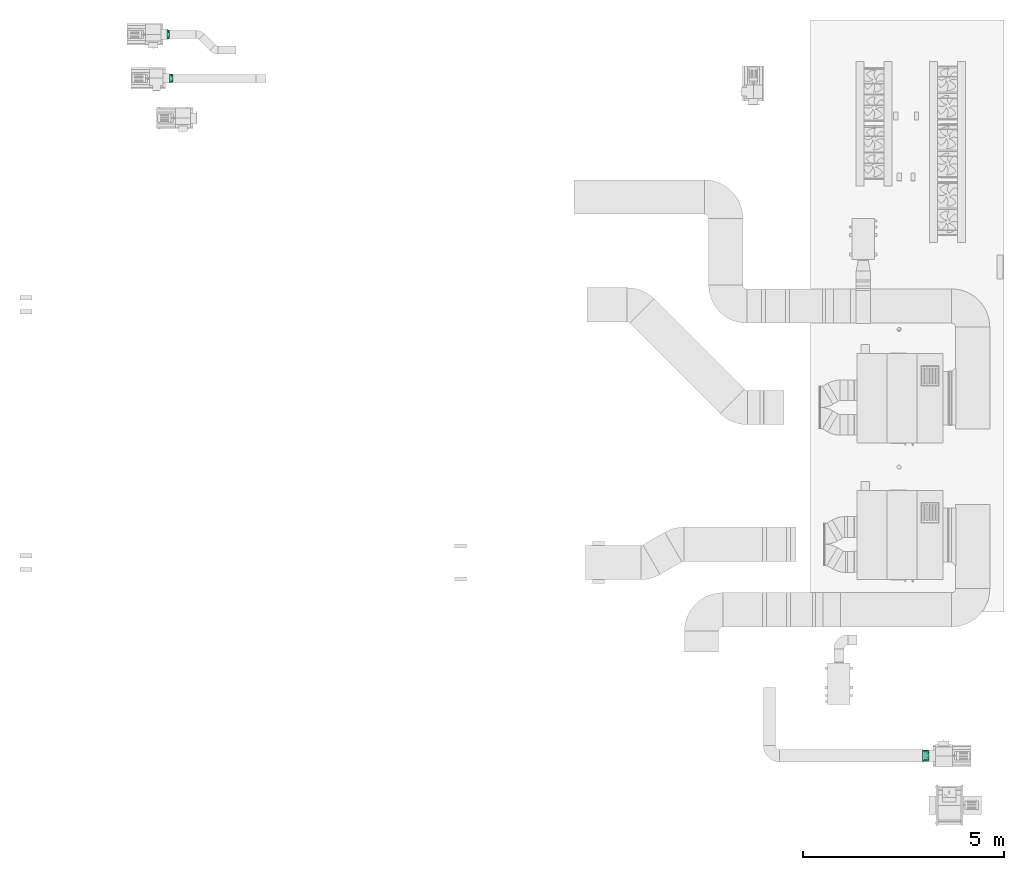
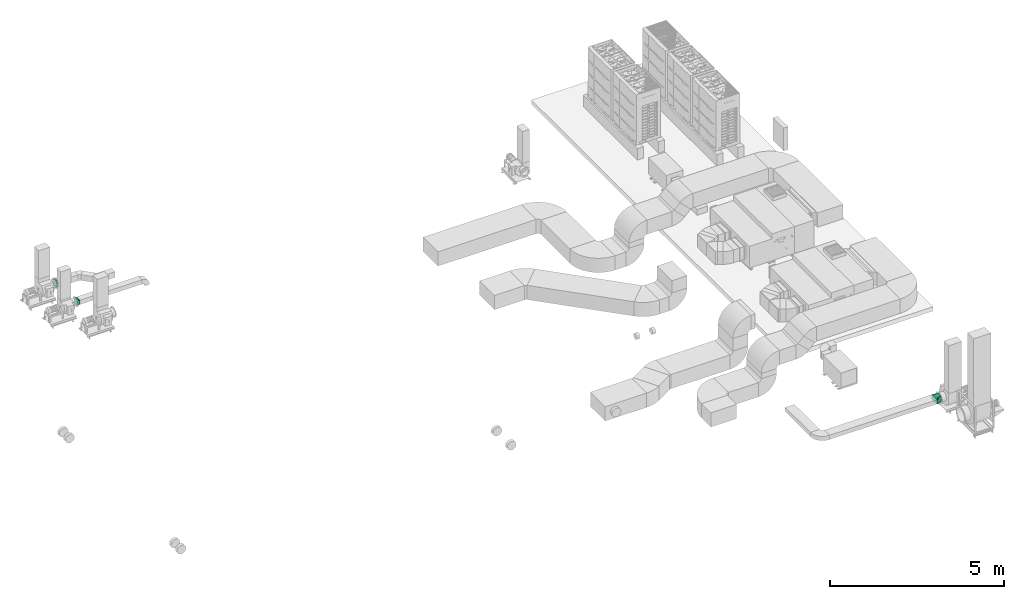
# One storey, part 7 of 10: 3 flow fittings.
"""IFC2X3 building model written with IfcOpenShell, lengths in millimetres."""

from ifc_helpers import new_model, entity, si_unit, converted_unit, derived_unit, direction, frame, origin, place, context, subcontext, project, spatial, faceted_brep, source, transform, mapped, material, type_object, type_shapes, element, save


model = new_model("IFC2X3")

# Units and contexts
model_context = context("Model", 3, precision=0.01, world=origin(), true_north=direction((6.123233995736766e-17, 1.0)))
body_context = subcontext(model_context, "Body", "Model", "MODEL_VIEW")
ifc_project = project(units=[si_unit("LENGTHUNIT", "METRE", prefix="MILLI"), converted_unit("PLANEANGLEUNIT", "DEGREE", entity("IfcPlaneAngleMeasure", 0.017453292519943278), si_unit("PLANEANGLEUNIT", "RADIAN"), dimensions=[0, 0, 0, 0, 0, 0, 0]), si_unit("AREAUNIT", "SQUARE_METRE"), derived_unit("THERMALTRANSMITTANCEUNIT", [(si_unit("MASSUNIT", "GRAM", prefix="KILO"), 1), (si_unit("THERMODYNAMICTEMPERATUREUNIT", "KELVIN"), -1), (si_unit("TIMEUNIT", "SECOND"), -3)])], contexts=[model_context])

# Site, building, storey
site_placement = place(None, origin())
site = spatial("IfcSite", under=ifc_project, at=site_placement, Name="Default", CompositionType="ELEMENT")
building_placement = place(site_placement, origin())
building = spatial("IfcBuilding", under=site, at=building_placement, Name="Praça Pedro II, 1301 - Centro (Sul), Teresina - PI, 64001-100", CompositionType="ELEMENT")
storey_placement = place(building_placement, frame((0.0, 0.0, 9040.0)))
storey = spatial("IfcBuildingStorey", under=building, at=storey_placement, Name="LAJE TÉCNICA", CompositionType="ELEMENT", Elevation=9040.0)

# Flow fittings
ifc_material = material(Name="<Unnamed>")
duct_fitting_type_1 = type_object("IfcDuctFittingType", Name="M_Transição retangular para oval - Ângulo:45 Graus", PredefinedType="NOTDEFINED", material=ifc_material)
shared_shape_1 = source(origin(), body_context, "Body", "Brep", [
    faceted_brep([(89.32590180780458, -65.83194825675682, -90.60990336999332), (89.32590180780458, -50.22092581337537, -98.56411659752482), (89.32590180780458, -34.60990336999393, -106.51832982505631), (89.32590180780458, -21.364137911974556, -108.61625297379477), (89.32590180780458, -10.682068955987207, -110.30812648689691), (89.32590180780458, -5.341034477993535, -111.15406324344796), (89.32590180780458, 0.0, -112.0), (89.32590180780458, 5.341034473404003, -111.15406324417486), (89.32590180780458, 10.682068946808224, -110.30812648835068), (89.32590180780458, 21.36413789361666, -108.61625297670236), (89.32590180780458, 34.60990336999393, -106.5183298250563), (89.32590180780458, 50.2209258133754, -98.56411659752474), (89.32590180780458, 65.83194825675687, -90.60990336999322), (89.32590180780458, 78.22092581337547, -78.22092581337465), (89.32590180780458, 90.60990336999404, -65.83194825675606), (89.32590180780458, 98.56411659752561, -50.22092581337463), (89.32590180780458, 106.51832982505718, -34.60990336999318), (89.32590180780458, 108.61625297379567, -21.364137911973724), (89.32590180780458, 110.30812648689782, -10.68206895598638), (89.32590180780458, 111.15406324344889, -5.341034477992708), (89.32590180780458, 112.0, 0.0), (89.32590180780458, 111.15406324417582, 5.341034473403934), (89.32590180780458, 110.30812648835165, 10.682068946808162), (89.32590180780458, 108.61625297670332, 21.364137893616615), (89.32590180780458, 106.51832982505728, 34.60990336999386), (89.32590180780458, 98.56411659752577, 50.220925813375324), (89.32590180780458, 90.60990336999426, 65.83194825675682), (89.32590180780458, 78.22092581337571, 78.22092581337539), (89.32590180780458, 65.83194825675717, 90.60990336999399), (89.32590180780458, 50.22092581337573, 98.56411659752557), (89.32590180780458, 34.6099033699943, 106.51832982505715), (89.32590180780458, 21.364137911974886, 108.61625297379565), (89.32590180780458, 10.682068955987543, 110.30812648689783), (89.32590180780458, 5.341034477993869, 111.15406324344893), (89.32590180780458, 0.0, 112.0), (89.32590180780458, -5.341034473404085, 111.1540632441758), (89.32590180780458, -10.682068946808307, 110.30812648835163), (89.32590180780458, -21.364137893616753, 108.61625297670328), (89.32590180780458, -34.60990336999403, 106.51832982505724), (89.32590180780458, -50.220925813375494, 98.5641165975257), (89.32590180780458, -65.83194825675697, 90.60990336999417), (89.32590180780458, -78.22092581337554, 78.22092581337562), (89.32590180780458, -90.60990336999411, 65.83194825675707), (89.32590180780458, -98.56411659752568, 50.220925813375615), (89.32590180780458, -106.51832982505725, 34.60990336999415), (89.32590180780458, -108.61625297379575, 21.364137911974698), (89.32590180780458, -110.3081264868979, 10.682068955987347), (89.32590180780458, -111.15406324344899, 5.341034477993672), (89.32590180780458, -112.0, 0.0), (89.32590180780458, -111.15406324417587, -5.341034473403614), (89.32590180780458, -110.30812648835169, -10.68206894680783), (89.32590180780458, -108.61625297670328, -21.36413789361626), (89.32590180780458, -106.51832982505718, -34.60990336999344), (89.32590180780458, -98.5641165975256, -50.22092581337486), (89.32590180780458, -90.609903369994, -65.83194825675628), (89.32590180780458, -78.2209258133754, -78.22092581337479), (0.0, -100.0, 75.0), (0.0, 100.0, 75.0), (0.0, 100.0, -75.0), (0.0, -100.0, -75.0), (46.500485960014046, -47.94288664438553, 94.26113194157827), (44.66295066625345, -87.12868780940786, 79.42207705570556), (11.625121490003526, -86.98572166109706, 79.8152829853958), (34.87536447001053, -60.95716498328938, 89.4458489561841), (23.250242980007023, -73.97144332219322, 84.63056597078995), (83.97272482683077, -5.9928608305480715, 109.78264149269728), (78.61954784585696, -11.985721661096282, 107.56528298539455), (67.9131938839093, -23.971443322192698, 103.13056597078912), (57.20683992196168, -35.95716498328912, 98.69584895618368), (23.250242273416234, -103.12342670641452, 55.478583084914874), (34.87536341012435, -104.6851400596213, 45.71787462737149), (46.50048454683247, -106.24685341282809, 35.95716616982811), (57.20683886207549, -107.6851400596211, 26.96787462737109), (67.91319317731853, -109.1234267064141, 17.978583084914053), (78.61954749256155, -110.56171335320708, 8.989291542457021), (83.97272465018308, -111.28085667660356, 4.494645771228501), (11.625121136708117, -101.56171335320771, 65.23929154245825), (11.625121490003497, -101.56171340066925, -65.23929124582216), (23.250242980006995, -103.12342680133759, -55.4785824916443), (34.87536447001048, -104.68514020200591, -45.717873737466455), (46.50048596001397, -106.24685360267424, -35.95716498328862), (57.20683992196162, -107.68514020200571, -26.967873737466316), (67.91319388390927, -109.12342680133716, -17.978582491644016), (78.61954784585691, -110.56171340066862, -8.989291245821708), (83.97272482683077, -111.28085670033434, -4.494645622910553), (44.66295066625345, -91.9220771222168, -74.62868774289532), (23.250242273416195, -73.97144411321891, -84.630565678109), (34.875363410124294, -60.9571661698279, -89.44584851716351), (46.50048454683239, -47.94288822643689, -94.26113135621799), (57.20683886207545, -35.95716616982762, -98.69584851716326), (67.91319317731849, -23.971444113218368, -103.13056567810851), (78.61954749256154, -11.985722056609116, -107.56528283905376), (83.97272465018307, -5.992861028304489, -109.78264141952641), (11.625121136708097, -86.98572205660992, -79.81528283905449), (11.625121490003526, 86.98572166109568, -79.81528298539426), (23.250242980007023, 73.97144332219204, -84.63056597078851), (34.87536447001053, 60.95716498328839, -89.44584895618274), (46.500485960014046, 47.94288664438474, -94.26113194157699), (57.20683992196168, 35.95716498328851, -98.6958489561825), (67.9131938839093, 23.97144332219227, -103.13056597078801), (78.61954784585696, 11.985721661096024, -107.56528298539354), (83.97272482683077, 5.9928608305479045, -109.7826414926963), (44.66295066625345, 87.12868780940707, -79.42207705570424), (23.250242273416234, 103.12342670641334, -55.47858308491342), (34.87536341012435, 104.68514005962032, -45.71787462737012), (46.50048454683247, 106.2468534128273, -35.95716616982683), (57.20683886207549, 107.6851400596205, -26.967874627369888), (67.91319317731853, 109.12342670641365, -17.978583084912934), (78.61954749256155, 110.56171335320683, -8.98929154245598), (83.97272465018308, 111.28085667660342, -4.494645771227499), (11.625121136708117, 101.56171335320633, -65.23929154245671), (11.625121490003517, 101.5617134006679, 65.2392912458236), (23.250242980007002, 103.12342680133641, 55.47858249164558), (34.87536447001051, 104.68514020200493, 45.71787373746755), (46.500485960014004, 106.24685360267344, 35.95716498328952), (57.20683992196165, 107.6851402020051, 26.967873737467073), (67.91319388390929, 109.12342680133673, 17.978582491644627), (78.61954784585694, 110.56171340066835, 8.989291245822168), (83.97272482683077, 111.28085670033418, 4.494645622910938), (44.66295066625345, 91.92207712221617, 74.62868774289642), (23.250242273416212, 73.97144411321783, 84.63056567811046), (34.87536341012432, 60.95716616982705, 89.44584851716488), (46.500484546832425, 47.94288822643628, 94.26113135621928), (57.20683886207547, 35.95716616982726, 98.69584851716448), (67.91319317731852, 23.97144411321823, 103.13056567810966), (78.61954749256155, 11.985722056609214, 107.56528283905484), (83.97272465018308, 5.9928610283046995, 109.78264141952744), (11.625121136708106, 86.98572205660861, 79.81528283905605)], [[[0, 1, 2, 3, 4, 5, 6, 7, 8, 9, 10, 11, 12, 13, 14, 15, 16, 17, 18, 19, 20, 21, 22, 23, 24, 25, 26, 27, 28, 29, 30, 31, 32, 33, 34, 35, 36, 37, 38, 39, 40, 41, 42, 43, 44, 45, 46, 47, 48, 49, 50, 51, 52, 53, 54, 55]], [[56, 57, 58, 59]], [[60, 39, 38]], [[56, 61, 62]], [[39, 60, 63, 64]], [[65, 66, 67, 68, 60, 38, 37, 36, 35, 34]], [[62, 61, 40]], [[43, 69, 70, 71]], [[64, 40, 39]], [[44, 71, 72, 73, 74, 75, 48, 47, 46, 45]], [[42, 76, 69]], [[71, 44, 43]], [[61, 76, 41]], [[40, 64, 62]], [[76, 42, 41]], [[40, 61, 41]], [[61, 56, 76]], [[69, 43, 42]], [[75, 74, 73, 72, 71, 70, 69, 76, 56, 59, 77, 78, 79, 80, 81, 82, 83, 84, 48]], [[80, 53, 52]], [[59, 85, 77]], [[53, 80, 79, 78]], [[84, 83, 82, 81, 80, 52, 51, 50, 49, 48]], [[77, 85, 54]], [[1, 86, 87, 88]], [[78, 54, 53]], [[2, 88, 89, 90, 91, 92, 6, 5, 4, 3]], [[0, 93, 86]], [[88, 2, 1]], [[85, 93, 55]], [[54, 78, 77]], [[93, 0, 55]], [[54, 85, 55]], [[85, 59, 93]], [[86, 1, 0]], [[92, 91, 90, 89, 88, 87, 86, 93, 59, 58, 94, 95, 96, 97, 98, 99, 100, 101, 6]], [[97, 11, 10]], [[58, 102, 94]], [[11, 97, 96, 95]], [[101, 100, 99, 98, 97, 10, 9, 8, 7, 6]], [[94, 102, 12]], [[15, 103, 104, 105]], [[95, 12, 11]], [[16, 105, 106, 107, 108, 109, 20, 19, 18, 17]], [[14, 110, 103]], [[105, 16, 15]], [[102, 110, 13]], [[12, 95, 94]], [[110, 14, 13]], [[12, 102, 13]], [[102, 58, 110]], [[103, 15, 14]], [[58, 57, 111, 112, 113, 114, 115, 116, 117, 118, 20, 109, 108, 107, 106, 105, 104, 103, 110]], [[114, 25, 24]], [[57, 119, 111]], [[25, 114, 113, 112]], [[118, 117, 116, 115, 114, 24, 23, 22, 21, 20]], [[111, 119, 26]], [[29, 120, 121, 122]], [[112, 26, 25]], [[30, 122, 123, 124, 125, 126, 34, 33, 32, 31]], [[28, 127, 120]], [[122, 30, 29]], [[119, 127, 27]], [[26, 112, 111]], [[127, 28, 27]], [[26, 119, 27]], [[119, 57, 127]], [[120, 29, 28]], [[57, 56, 62, 64, 63, 60, 68, 67, 66, 65, 34, 126, 125, 124, 123, 122, 121, 120, 127]]]),
])
type_shapes(duct_fitting_type_1, [shared_shape_1])
flow_fitting_1_placement = place(storey_placement, frame((19361.896973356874, -52617.498864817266, 480.0), z_axis=(0.0, 0.0, 1.0), x_axis=(-1.0, 0.0, 0.0)))
element("IfcFlowFitting", 1, at=flow_fitting_1_placement, inside=storey, type_object=duct_fitting_type_1, material=ifc_material, Name="M_Transição retangular para oval - Ângulo:45 Graus", ObjectType="M_Transição retangular para oval - Ângulo:45 Graus", context=body_context, shape_type="MappedRepresentation", body=[
    mapped(shared_shape_1, transform((0.0, 0.0, 0.0), scale=1.0)),
])
duct_fitting_type_2 = type_object("IfcDuctFittingType", Name="M_Transição retangular para oval - Ângulo:45 Graus", PredefinedType="NOTDEFINED", material=ifc_material)
shared_shape_2 = source(origin(), body_context, "Body", "Brep", [
    faceted_brep([(156.92388155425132, -53.117333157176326, 128.23658610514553), (156.92388155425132, -70.0, 121.24355652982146), (156.92388155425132, -84.49747468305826, 110.1192529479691), (156.92388155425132, -98.99494936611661, 98.99494936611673), (156.92388155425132, -110.11925294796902, 84.49747468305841), (156.92388155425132, -121.24355652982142, 70.0), (156.9238815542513, -128.2365861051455, 53.11733315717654), (156.92388155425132, -135.2296156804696, 36.234666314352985), (156.92388155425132, -136.7314033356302, 24.82745655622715), (156.92388155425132, -138.23319099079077, 13.420246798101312), (156.92388155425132, -140.0, 0.0), (156.92388155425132, -138.23319099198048, -13.420246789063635), (156.92388155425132, -136.73140333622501, -24.827456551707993), (156.92388155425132, -135.22961568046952, -36.23466631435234), (156.92388155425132, -128.23658610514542, -53.11733315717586), (156.92388155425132, -121.2435565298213, -70.0), (156.92388155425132, -110.11925294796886, -84.49747468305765), (156.92388155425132, -98.99494936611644, -98.99494936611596), (156.92388155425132, -84.4974746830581, -110.11925294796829), (156.92388155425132, -70.0, -121.24355652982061), (156.92388155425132, -53.11733315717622, -128.23658610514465), (156.92388155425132, -36.23466631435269, -135.22961568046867), (156.92388155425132, -24.8274565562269, -136.7314033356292), (156.92388155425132, -13.420246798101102, -138.23319099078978), (156.92388155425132, 0.0, -140.0), (156.92388155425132, 13.420246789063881, -138.23319099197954), (156.92388155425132, 24.82745655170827, -136.7314033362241), (156.92388155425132, 36.234666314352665, -135.22961568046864), (156.92388155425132, 53.11733315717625, -128.23658610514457), (156.92388155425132, 70.0, -121.24355652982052), (156.92388155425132, 84.49747468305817, -110.11925294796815), (156.92388155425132, 98.99494936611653, -98.99494936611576), (156.92388155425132, 110.11925294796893, -84.49747468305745), (156.92388155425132, 121.24355652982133, -70.0), (156.92388155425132, 128.23658610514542, -53.11733315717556), (156.92388155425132, 135.22961568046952, -36.234666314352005), (156.92388155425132, 136.7314033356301, -24.82745655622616), (156.92388155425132, 138.23319099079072, -13.420246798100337), (156.92388155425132, 140.0, 0.0), (156.92388155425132, 138.2331909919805, 13.420246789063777), (156.92388155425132, 136.73140333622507, 24.827456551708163), (156.92388155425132, 135.22961568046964, 36.234666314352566), (156.92388155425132, 128.23658610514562, 53.11733315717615), (156.92388155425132, 121.24355652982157, 70.0), (156.92388155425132, 110.11925294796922, 84.49747468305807), (156.92388155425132, 98.99494936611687, 98.99494936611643), (156.92388155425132, 84.49747468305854, 110.11925294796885), (156.92388155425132, 70.0, 121.24355652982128), (156.92388155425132, 53.11733315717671, 128.2365861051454), (156.92388155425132, 36.2346663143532, 135.2296156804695), (156.92388155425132, 24.827456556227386, 136.7314033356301), (156.92388155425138, 13.42024679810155, 138.23319099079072), (156.92388155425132, 0.0, 140.0), (156.92388155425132, -13.420246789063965, 138.23319099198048), (156.92388155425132, -24.827456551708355, 136.73140333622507), (156.92388155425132, -36.234666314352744, 135.2296156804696), (0.0, -150.0, 75.0), (0.0, 150.0, 75.0), (0.0, 150.0, -75.0), (0.0, -150.0, -75.0), (100.49850256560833, -53.93574747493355, 116.6278427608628), (81.69004290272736, -71.91432996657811, 108.8371236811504), (61.267532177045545, -91.43574747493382, 100.37784276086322), (78.4619407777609, -121.41085970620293, 89.90259632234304), (20.422510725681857, -130.47858249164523, 83.45928092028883), (40.845020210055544, -147.39714441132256, 55.47858308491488), (20.422510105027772, -148.69857220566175, 65.23929154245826), (61.26753031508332, -146.09571661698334, 45.71787462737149), (81.69004042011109, -144.79428882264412, 35.95716616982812), (100.49850070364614, -143.59571661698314, 26.967874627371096), (138.11542189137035, -17.97858249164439, 132.20928092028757), (119.30696222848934, -35.95716498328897, 124.4185618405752), (119.30696098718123, -142.3971444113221, 17.978583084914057), (138.11542127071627, -141.1985722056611, 8.989291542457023), (40.84502145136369, -110.9571649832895, 91.91856184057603), (20.42251072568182, -148.69857216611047, -65.23929124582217), (40.84502145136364, -147.39714433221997, -55.47858249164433), (61.26753217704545, -146.0957164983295, -45.71787373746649), (81.69004290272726, -144.794288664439, -35.95716498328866), (100.49850256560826, -143.59571649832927, -26.967873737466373), (119.30696222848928, -142.39714433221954, -17.978582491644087), (138.11542189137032, -141.1985721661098, -8.989291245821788), (78.4619407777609, -127.40259632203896, -83.91085970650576), (40.845020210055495, -110.95716616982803, -91.91856132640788), (20.422510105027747, -130.4785830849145, -83.45928066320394), (61.267530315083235, -91.43574925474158, -100.37784198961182), (81.69004042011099, -71.91433233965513, -108.83712265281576), (100.49850070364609, -53.93574925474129, -116.6278419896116), (119.30696098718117, -35.95716616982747, -124.4185613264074), (138.11542127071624, -17.978583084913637, -132.20928066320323), (20.422510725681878, 130.47858249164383, -83.45928092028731), (40.84502145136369, 110.95716498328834, -91.91856184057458), (61.267532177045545, 91.43574747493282, -100.37784276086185), (81.69004290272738, 71.91432996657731, -108.83712368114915), (100.49850256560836, 53.935747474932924, -116.62784276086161), (119.30696222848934, 35.95716498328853, -124.41856184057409), (138.11542189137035, 17.978582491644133, -132.20928092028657), (78.4619407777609, 121.41085970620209, -89.90259632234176), (40.84502021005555, 147.39714441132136, -55.47858308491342), (20.422510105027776, 148.69857220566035, -65.23929154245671), (61.26753031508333, 146.09571661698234, -45.71787462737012), (81.6900404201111, 144.79428882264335, -35.95716616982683), (100.49850070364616, 143.59571661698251, -26.967874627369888), (119.30696098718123, 142.39714441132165, -17.978583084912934), (138.11542127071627, 141.19857220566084, -8.98929154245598), (20.42251072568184, 148.6985721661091, 65.2392912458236), (40.84502145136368, 147.3971443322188, 55.478582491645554), (61.2675321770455, 146.0957164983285, 45.717873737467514), (81.69004290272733, 144.7942886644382, 35.95716498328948), (100.49850256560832, 143.59571649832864, 26.96787373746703), (119.30696222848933, 142.3971443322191, 17.978582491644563), (138.11542189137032, 141.19857216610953, 8.9892912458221), (78.4619407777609, 127.40259632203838, 83.91085970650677), (40.84502021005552, 110.95716616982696, 91.91856132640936), (20.42251010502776, 130.47858308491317, 83.45928066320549), (61.2675303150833, 91.43574925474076, 100.37784198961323), (81.69004042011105, 71.91433233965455, 108.83712265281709), (100.49850070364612, 53.935749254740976, 116.62784198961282), (119.30696098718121, 35.957166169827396, 124.41856132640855), (138.11542127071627, 17.978583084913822, 132.20928066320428)], [[[0, 1, 2, 3, 4, 5, 6, 7, 8, 9, 10, 11, 12, 13, 14, 15, 16, 17, 18, 19, 20, 21, 22, 23, 24, 25, 26, 27, 28, 29, 30, 31, 32, 33, 34, 35, 36, 37, 38, 39, 40, 41, 42, 43, 44, 45, 46, 47, 48, 49, 50, 51, 52, 53, 54, 55]], [[56, 57, 58, 59]], [[60, 61, 62, 0]], [[63, 2, 64]], [[4, 3, 63]], [[55, 60, 0]], [[0, 62, 1]], [[65, 5, 4]], [[4, 63, 66]], [[6, 67, 68, 69]], [[70, 71, 60, 55, 54, 53, 52]], [[8, 7, 69, 72, 73, 10, 9]], [[6, 5, 67]], [[6, 69, 7]], [[5, 65, 67]], [[2, 74, 64]], [[2, 1, 74]], [[56, 63, 64]], [[2, 63, 3]], [[4, 66, 65]], [[63, 56, 66]], [[62, 74, 1]], [[73, 72, 69, 68, 67, 65, 66, 56, 59, 75, 76, 77, 78, 79, 80, 81, 10]], [[79, 78, 77, 14]], [[82, 16, 75]], [[18, 17, 82]], [[13, 79, 14]], [[14, 77, 15]], [[83, 19, 18]], [[18, 82, 84]], [[20, 85, 86, 87]], [[81, 80, 79, 13, 12, 11, 10]], [[22, 21, 87, 88, 89, 24, 23]], [[20, 19, 85]], [[20, 87, 21]], [[19, 83, 85]], [[16, 76, 75]], [[16, 15, 76]], [[59, 82, 75]], [[16, 82, 17]], [[18, 84, 83]], [[82, 59, 84]], [[77, 76, 15]], [[89, 88, 87, 86, 85, 83, 84, 59, 58, 90, 91, 92, 93, 94, 95, 96, 24]], [[94, 93, 92, 28]], [[97, 30, 90]], [[32, 31, 97]], [[27, 94, 28]], [[28, 92, 29]], [[98, 33, 32]], [[32, 97, 99]], [[34, 100, 101, 102]], [[96, 95, 94, 27, 26, 25, 24]], [[36, 35, 102, 103, 104, 38, 37]], [[34, 33, 100]], [[34, 102, 35]], [[33, 98, 100]], [[30, 91, 90]], [[30, 29, 91]], [[58, 97, 90]], [[30, 97, 31]], [[32, 99, 98]], [[97, 58, 99]], [[92, 91, 29]], [[58, 57, 105, 106, 107, 108, 109, 110, 111, 38, 104, 103, 102, 101, 100, 98, 99]], [[109, 108, 107, 42]], [[112, 44, 105]], [[46, 45, 112]], [[41, 109, 42]], [[42, 107, 43]], [[113, 47, 46]], [[46, 112, 114]], [[48, 115, 116, 117]], [[111, 110, 109, 41, 40, 39, 38]], [[50, 49, 117, 118, 119, 52, 51]], [[48, 47, 115]], [[48, 117, 49]], [[47, 113, 115]], [[44, 106, 105]], [[44, 43, 106]], [[57, 112, 105]], [[44, 112, 45]], [[46, 114, 113]], [[112, 57, 114]], [[107, 106, 43]], [[57, 56, 64, 74, 62, 61, 60, 71, 70, 52, 119, 118, 117, 116, 115, 113, 114]]]),
])
type_shapes(duct_fitting_type_2, [shared_shape_2])
flow_fitting_2_placement = place(storey_placement, frame((37994.284970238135, -69461.38817958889, 715.0)))
element("IfcFlowFitting", 2, at=flow_fitting_2_placement, inside=storey, type_object=duct_fitting_type_2, material=ifc_material, Name="M_Transição retangular para oval - Ângulo:45 Graus", ObjectType="M_Transição retangular para oval - Ângulo:45 Graus", context=body_context, shape_type="MappedRepresentation", body=[
    mapped(shared_shape_2, transform((0.0, 0.0, 0.0), scale=1.0)),
])
duct_fitting_type_3 = type_object("IfcDuctFittingType", Name="M_Transição retangular para oval - Ângulo:45 Graus", PredefinedType="NOTDEFINED", material=ifc_material)
shared_shape_3 = source(origin(), body_context, "Body", "Brep", [
    faceted_brep([(60.355339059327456, -73.47315653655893, -101.12712429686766), (60.355339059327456, -56.05014041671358, -110.0045944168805), (60.355339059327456, -38.627124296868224, -118.88206453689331), (60.355339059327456, -23.843903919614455, -121.22349662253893), (60.355339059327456, -11.921951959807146, -123.11174831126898), (60.355339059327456, -5.960975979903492, -124.05587415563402), (60.355339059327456, 0.0, -125.0), (60.355339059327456, 5.96097597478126, -124.05587415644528), (60.355339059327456, 11.921951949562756, -123.11174831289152), (60.355339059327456, 23.84390389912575, -121.22349662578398), (60.355339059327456, 38.627124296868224, -118.88206453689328), (60.355339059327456, 56.05014041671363, -110.00459441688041), (60.355339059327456, 73.47315653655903, -101.12712429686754), (60.355339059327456, 87.3001404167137, -87.30014041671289), (60.355339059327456, 101.12712429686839, -73.47315653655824), (60.355339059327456, 110.00459441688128, -56.05014041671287), (60.355339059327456, 118.88206453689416, -38.6271242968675), (60.355339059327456, 121.2234966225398, -23.843903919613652), (60.355339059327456, 123.11174831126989, -11.921951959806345), (60.355339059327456, 124.05587415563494, -5.96097597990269), (60.355339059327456, 125.0, 0.0), (60.355339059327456, 124.05587415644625, 5.960975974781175), (60.355339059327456, 123.11174831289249, 11.92195194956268), (60.355339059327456, 121.22349662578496, 23.843903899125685), (60.355339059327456, 118.8820645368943, 38.62712429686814), (60.355339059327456, 110.00459441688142, 56.05014041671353), (60.355339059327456, 101.12712429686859, 73.47315653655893), (60.355339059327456, 87.30014041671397, 87.30014041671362), (60.355339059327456, 73.47315653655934, 101.12712429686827), (60.355339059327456, 56.050140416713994, 110.0045944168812), (60.355339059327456, 38.62712429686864, 118.88206453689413), (60.355339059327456, 23.843903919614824, 121.22349662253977), (60.35533905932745, 11.921951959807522, 123.11174831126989), (60.355339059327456, 5.960975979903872, 124.05587415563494), (60.355339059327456, 0.0, 125.0), (60.355339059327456, -5.960975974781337, 124.05587415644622), (60.355339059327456, -11.921951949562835, 123.11174831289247), (60.355339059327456, -23.843903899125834, 121.22349662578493), (60.355339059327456, -38.627124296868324, 118.88206453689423), (60.355339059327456, -56.05014041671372, 110.00459441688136), (60.355339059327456, -73.47315653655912, 101.12712429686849), (60.355339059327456, -87.30014041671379, 87.30014041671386), (60.355339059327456, -101.12712429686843, 73.47315653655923), (60.355339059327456, -110.00459441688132, 56.05014041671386), (60.355339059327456, -118.88206453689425, 38.62712429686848), (60.355339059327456, -121.22349662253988, 23.84390391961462), (60.355339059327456, -123.11174831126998, 11.921951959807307), (60.35533905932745, -124.05587415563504, 5.960975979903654), (60.355339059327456, -125.0, 0.0), (60.355339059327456, -124.0558741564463, -5.960975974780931), (60.355339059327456, -123.11174831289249, -11.921951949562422), (60.355339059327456, -121.22349662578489, -23.843903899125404), (60.355339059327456, -118.88206453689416, -38.62712429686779), (60.355339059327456, -110.00459441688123, -56.05014041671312), (60.355339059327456, -101.1271242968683, -73.47315653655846), (60.355339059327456, -87.30014041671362, -87.30014041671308), (0.0, -100.0, 100.0), (0.0, 100.0, 100.0), (0.0, 100.0, -100.0), (0.0, -100.0, -100.0), (31.41924727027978, -47.94288664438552, 113.01427833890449), (30.177669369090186, -91.43826761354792, 96.7880324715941), (7.8548118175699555, -86.98572166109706, 103.25356958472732), (23.56443545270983, -60.957164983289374, 109.76070875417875), (15.70962363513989, -73.97144332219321, 106.50713916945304), (56.7383275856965, -5.992860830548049, 123.50178479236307), (53.12131611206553, -11.98572166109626, 122.00356958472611), (45.887293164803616, -23.971443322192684, 119.00713916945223), (38.653270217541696, -35.957164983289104, 116.01070875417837), (15.709623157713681, -106.50713897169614, 73.9714441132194), (23.56443473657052, -109.76070845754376, 60.957166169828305), (31.419246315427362, -113.01427794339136, 47.94288822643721), (38.653269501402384, -116.01070845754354, 35.957166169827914), (45.88729268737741, -119.00713897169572, 23.971444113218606), (53.12131587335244, -122.0035694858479, 11.985722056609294), (56.73832746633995, -123.50178474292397, 5.9928610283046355), (7.8548115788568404, -103.25356948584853, 86.9857220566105), (7.854811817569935, -103.25356958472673, -86.98572166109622), (15.709623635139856, -106.50713916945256, -73.97144332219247), (23.564435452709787, -109.76070875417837, -60.9571649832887), (31.41924727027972, -113.01427833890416, -47.94288664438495), (38.653270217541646, -116.01070875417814, -35.95716498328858), (45.88729316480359, -119.00713916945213, -23.971443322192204), (53.12131611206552, -122.00356958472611, -11.985721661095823), (56.73832758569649, -123.50178479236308, -5.992860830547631), (30.177669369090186, -96.7880324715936, -91.43826761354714), (15.709623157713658, -73.9714441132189, -106.50713897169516), (23.56443473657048, -60.95716616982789, -109.76070845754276), (31.419246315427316, -47.94288822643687, -113.01427794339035), (38.65326950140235, -35.957166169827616, -116.01070845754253), (45.887292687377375, -23.971444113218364, -119.0071389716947), (53.12131587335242, -11.985722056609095, -122.00356948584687), (56.738327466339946, -5.992861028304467, -123.50178474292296), (7.854811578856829, -86.98572205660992, -103.25356948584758), (7.8548118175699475, 86.9857216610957, -103.25356958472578), (15.70962363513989, 73.97144332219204, -106.50713916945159), (23.56443545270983, 60.957164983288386, -109.76070875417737), (31.419247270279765, 47.94288664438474, -113.01427833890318), (38.65327021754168, 35.95716498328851, -116.01070875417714), (45.887293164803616, 23.971443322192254, -119.00713916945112), (53.12131611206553, 11.985721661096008, -122.00356958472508), (56.738327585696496, 5.992860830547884, -123.50178479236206), (30.177669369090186, 91.43826761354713, -96.78803247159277), (15.709623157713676, 106.50713897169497, -73.97144411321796), (23.564434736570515, 109.76070845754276, -60.95716616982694), (31.41924631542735, 113.01427794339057, -47.94288822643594), (38.65326950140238, 116.01070845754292, -35.95716616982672), (45.88729268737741, 119.00713897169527, -23.97144411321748), (53.12131587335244, 122.00356948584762, -11.985722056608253), (56.738327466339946, 123.50178474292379, -5.992861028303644), (7.854811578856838, 103.25356948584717, -86.98572205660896), (7.854811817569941, 103.25356958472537, 86.98572166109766), (15.709623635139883, 106.50713916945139, 73.97144332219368), (23.56443545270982, 109.7607087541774, 60.957164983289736), (31.41924727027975, 113.0142783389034, 47.94288664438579), (38.65327021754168, 116.01070875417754, 35.957164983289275), (45.88729316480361, 119.00713916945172, 23.971443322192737), (53.12131611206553, 122.00356958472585, 11.985721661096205), (56.738327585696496, 123.50178479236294, 5.99286083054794), (30.177669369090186, 96.788032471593, 91.43826761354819), (15.70962315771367, 73.97144411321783, 106.50713897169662), (23.564434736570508, 60.957166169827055, 109.76070845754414), (31.41924631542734, 47.94288822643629, 113.01427794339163), (38.65326950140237, 35.95716616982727, 116.01070845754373), (45.8872926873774, 23.97144411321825, 119.00713897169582), (53.12131587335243, 11.985722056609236, 122.00356948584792), (56.738327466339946, 5.992861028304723, 123.50178474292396), (7.854811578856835, 86.9857220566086, 103.25356948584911)], [[[0, 1, 2, 3, 4, 5, 6, 7, 8, 9, 10, 11, 12, 13, 14, 15, 16, 17, 18, 19, 20, 21, 22, 23, 24, 25, 26, 27, 28, 29, 30, 31, 32, 33, 34, 35, 36, 37, 38, 39, 40, 41, 42, 43, 44, 45, 46, 47, 48, 49, 50, 51, 52, 53, 54, 55]], [[56, 57, 58, 59]], [[60, 39, 38]], [[56, 61, 62]], [[39, 60, 63, 64]], [[65, 66, 67, 68, 60, 38, 37, 36, 35, 34]], [[62, 61, 40]], [[43, 69, 70, 71]], [[64, 40, 39]], [[44, 71, 72, 73, 74, 75, 48, 47, 46, 45]], [[42, 76, 69]], [[71, 44, 43]], [[61, 76, 41]], [[40, 64, 62]], [[76, 42, 41]], [[40, 61, 41]], [[61, 56, 76]], [[69, 43, 42]], [[75, 74, 73, 72, 71, 70, 69, 76, 56, 59, 77, 78, 79, 80, 81, 82, 83, 84, 48]], [[80, 53, 52]], [[59, 85, 77]], [[53, 80, 79, 78]], [[84, 83, 82, 81, 80, 52, 51, 50, 49, 48]], [[77, 85, 54]], [[1, 86, 87, 88]], [[78, 54, 53]], [[2, 88, 89, 90, 91, 92, 6, 5, 4, 3]], [[0, 93, 86]], [[88, 2, 1]], [[85, 93, 55]], [[54, 78, 77]], [[93, 0, 55]], [[54, 85, 55]], [[85, 59, 93]], [[86, 1, 0]], [[92, 91, 90, 89, 88, 87, 86, 93, 59, 58, 94, 95, 96, 97, 98, 99, 100, 101, 6]], [[97, 11, 10]], [[58, 102, 94]], [[11, 97, 96, 95]], [[101, 100, 99, 98, 97, 10, 9, 8, 7, 6]], [[94, 102, 12]], [[15, 103, 104, 105]], [[95, 12, 11]], [[16, 105, 106, 107, 108, 109, 20, 19, 18, 17]], [[14, 110, 103]], [[105, 16, 15]], [[102, 110, 13]], [[12, 95, 94]], [[110, 14, 13]], [[12, 102, 13]], [[102, 58, 110]], [[103, 15, 14]], [[58, 57, 111, 112, 113, 114, 115, 116, 117, 118, 20, 109, 108, 107, 106, 105, 104, 103, 110]], [[114, 25, 24]], [[57, 119, 111]], [[25, 114, 113, 112]], [[118, 117, 116, 115, 114, 24, 23, 22, 21, 20]], [[111, 119, 26]], [[29, 120, 121, 122]], [[112, 26, 25]], [[30, 122, 123, 124, 125, 126, 34, 33, 32, 31]], [[28, 127, 120]], [[122, 30, 29]], [[119, 127, 27]], [[26, 112, 111]], [[127, 28, 27]], [[26, 119, 27]], [[119, 57, 127]], [[120, 29, 28]], [[57, 56, 62, 64, 63, 60, 68, 67, 66, 65, 34, 126, 125, 124, 123, 122, 121, 120, 127]]]),
])
type_shapes(duct_fitting_type_3, [shared_shape_3])
flow_fitting_3_placement = place(storey_placement, frame((19272.92641060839, -51523.561083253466, 480.0), z_axis=(0.0, 0.0, 1.0), x_axis=(-1.0, 0.0, 0.0)))
element("IfcFlowFitting", 3, at=flow_fitting_3_placement, inside=storey, type_object=duct_fitting_type_3, material=ifc_material, Name="M_Transição retangular para oval - Ângulo:45 Graus", ObjectType="M_Transição retangular para oval - Ângulo:45 Graus", context=body_context, shape_type="MappedRepresentation", body=[
    mapped(shared_shape_3, transform((0.0, 0.0, 0.0), scale=1.0)),
])

save(model, "model.ifc")
